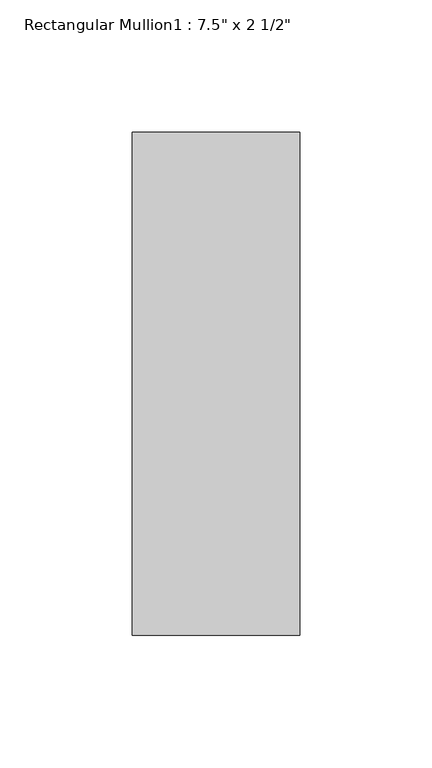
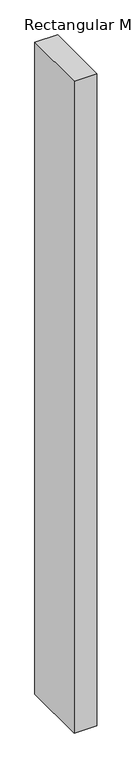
"""IFC4 building model written with IfcOpenShell, lengths in millimetres: member geometry."""

import ifcopenshell
import ifcopenshell.guid

model = None  # the IFC model being written
_history = None  # IfcOwnerHistory: only IFC2X3 demands one
_inside = {}  # id of a spatial element -> (the spatial element, [elements in it])
_under = {}  # id of a project, library or spatial element -> (it, [spatial elements below it])
_declared = {}  # id of a project -> (the project, [libraries it declares])
_typed = {}  # id of a type object -> (the type object, [elements of that type])
_made_of = {}  # id of a material, layer set ... -> (it, [elements and type objects made of it])


def new_model(schema):
    """Start an empty IFC model of exactly this schema.

    Asked for "IFC4X3", IfcOpenShell would pick the latest addendum, in which some entities
    have other attributes; the version numbers below select the first issue.
    IFC2X3 requires an IfcOwnerHistory on every rooted entity: one is made here for all.
    """
    global model, _history
    if schema == "IFC4X3":
        model = ifcopenshell.file(schema_version=(4, 3, 0, 0))
    else:
        model = ifcopenshell.file(schema=schema)
    _inside.clear()
    _under.clear()
    _declared.clear()
    _typed.clear()
    _made_of.clear()
    _history = None
    if model.schema == "IFC2X3":
        org = make("IfcOrganization", Name="unknown")
        user = make(
            "IfcPersonAndOrganization",
            ThePerson=make("IfcPerson", FamilyName="unknown"),
            TheOrganization=org,
        )
        app = make(
            "IfcApplication",
            ApplicationDeveloper=org,
            Version="unknown",
            ApplicationFullName="unknown",
            ApplicationIdentifier="unknown",
        )
        _history = make(
            "IfcOwnerHistory",
            OwningUser=user,
            OwningApplication=app,
            ChangeAction="ADDED",
            CreationDate=0,
        )
    return model


def make(cls, **values):
    """One entity of the class cls with the attributes given. An attribute that is None is left unset."""
    return model.create_entity(
        cls, **{name: value for name, value in values.items() if value is not None}
    )


def rooted(cls, **values):
    """An entity with a GlobalId (a new one), such as an element, a storey or a relation."""
    return make(cls, GlobalId=ifcopenshell.guid.new(), OwnerHistory=_history, **values)


def si_unit(unit_type, name, prefix=None):
    """IfcSIUnit, for example si_unit("LENGTHUNIT", "METRE", prefix="MILLI")."""
    return make("IfcSIUnit", UnitType=unit_type, Prefix=prefix, Name=name)


def assignment(units):
    """IfcUnitAssignment: the units of a project."""
    return None if units is None else make("IfcUnitAssignment", Units=units)


def point(xyz):
    """IfcCartesianPoint."""
    return None if xyz is None else make("IfcCartesianPoint", Coordinates=xyz)


def direction(xyz):
    """IfcDirection."""
    return None if xyz is None else make("IfcDirection", DirectionRatios=xyz)


def frame(location, z_axis=None, x_axis=None):
    """IfcAxis2Placement3D, a coordinate frame: its origin and axes. An axis left out is left unset."""
    return make(
        "IfcAxis2Placement3D",
        Location=point(location),
        Axis=direction(z_axis),
        RefDirection=direction(x_axis),
    )


def origin():
    """The frame at (0, 0, 0) with its axes left unset."""
    return frame((0.0, 0.0, 0.0))


def place(relative_to, where):
    """IfcLocalPlacement: puts the frame where relative to a parent placement (None: the world)."""
    return make(
        "IfcLocalPlacement", PlacementRelTo=relative_to, RelativePlacement=where
    )


def context(
    kind, dimensions, precision=None, world=None, true_north=None, identifier=None
):
    """IfcGeometricRepresentationContext, for example the 3D "Model" context."""
    return make(
        "IfcGeometricRepresentationContext",
        ContextIdentifier=identifier,
        ContextType=kind,
        CoordinateSpaceDimension=dimensions,
        Precision=precision,
        WorldCoordinateSystem=world,
        TrueNorth=true_north,
    )


def project(units=None, contexts=None):
    """IfcProject with its units and contexts."""
    return rooted(
        "IfcProject",
        Name="project",
        RepresentationContexts=contexts,
        UnitsInContext=assignment(units),
    )


def spatial(cls, under=None, at=None, **own):
    """A site, building, storey or space (cls), placed at a placement, below another one or the project."""
    s = rooted(cls, ObjectPlacement=at, **own)
    if under is not None:
        _under.setdefault(under.id(), (under, []))[1].append(s)
    return s


def polyline(points):
    """IfcPolyline through the points."""
    return make("IfcPolyline", Points=[point(p) for p in points])


def outline(outer, holes=None, kind="AREA"):
    """IfcArbitraryClosedProfileDef: a profile drawn as a closed curve; with holes, ...WithVoids."""
    if holes is None:
        return make("IfcArbitraryClosedProfileDef", ProfileType=kind, OuterCurve=outer)
    return make(
        "IfcArbitraryProfileDefWithVoids",
        ProfileType=kind,
        OuterCurve=outer,
        InnerCurves=holes,
    )


def extrude(swept, where, along, depth):
    """IfcExtrudedAreaSolid: the profile swept, set in the frame where, extruded along a direction by depth."""
    return make(
        "IfcExtrudedAreaSolid",
        SweptArea=swept,
        Position=where,
        ExtrudedDirection=direction(along),
        Depth=depth,
    )


def shape(context_of_items, identifier, shape_type, items):
    """IfcShapeRepresentation: the items that make up one representation, for example the "Body"."""
    return make(
        "IfcShapeRepresentation",
        ContextOfItems=context_of_items,
        RepresentationIdentifier=identifier,
        RepresentationType=shape_type,
        Items=items,
    )


def source(mapping_origin, context_of_items, identifier, shape_type, items):
    """IfcRepresentationMap: a shape defined once, which mapped items show again and again."""
    return make(
        "IfcRepresentationMap",
        MappingOrigin=mapping_origin,
        MappedRepresentation=shape(context_of_items, identifier, shape_type, items),
    )


def transform(
    local_origin,
    x_axis=None,
    y_axis=None,
    z_axis=None,
    scale=None,
    scale2=None,
    scale3=None,
    uniform=True,
):
    """IfcCartesianTransformationOperator3D, or its non-uniform kind. x_axis, y_axis, z_axis: its Axis1, 2, 3."""
    if uniform:
        return make(
            "IfcCartesianTransformationOperator3D",
            Axis1=direction(x_axis),
            Axis2=direction(y_axis),
            LocalOrigin=point(local_origin),
            Scale=scale,
            Axis3=direction(z_axis),
        )
    return make(
        "IfcCartesianTransformationOperator3DnonUniform",
        Axis1=direction(x_axis),
        Axis2=direction(y_axis),
        LocalOrigin=point(local_origin),
        Scale=scale,
        Axis3=direction(z_axis),
        Scale2=scale2,
        Scale3=scale3,
    )


def mapped(mapping_source, mapping_target):
    """IfcMappedItem: shows the shape of a source again, moved by a transform."""
    return make(
        "IfcMappedItem", MappingSource=mapping_source, MappingTarget=mapping_target
    )


def made_of(thing, what):
    """Note that an element or type object is made of a material, layer set ...; save() writes the relation."""
    if what is not None:
        _made_of.setdefault(what.id(), (what, []))[1].append(thing)
    return thing


def element(
    cls,
    number,
    at=None,
    inside=None,
    cuts=None,
    type_object=None,
    material=None,
    context=None,
    identifier="Body",
    shape_type=None,
    held_by="IfcProductDefinitionShape",
    body=None,
    shapes=None,
    **own,
):
    """One element of the class cls, such as IfcWall. Its Tag is "e" and its number.

    at: its placement. inside: the storey or other place that contains it. cuts: it is an
    opening in that element (IfcRelVoidsElement). A single representation is given by context,
    identifier, shape_type and body (its items); several are given by shapes. held_by: the class
    of the entity that holds the representations. save() writes the other relations.
    """
    e = rooted(cls, Tag="e%d" % number, ObjectPlacement=at, **own)
    if body is not None:
        shapes = [shape(context, identifier, shape_type, body)]
    if shapes is not None:
        e.Representation = make(held_by, Representations=shapes)
    if inside is not None:
        _inside.setdefault(inside.id(), (inside, []))[1].append(e)
    if cuts is not None:
        rooted(
            "IfcRelVoidsElement", RelatingBuildingElement=cuts, RelatedOpeningElement=e
        )
    if type_object is not None:
        _typed.setdefault(type_object.id(), (type_object, []))[1].append(e)
    return made_of(e, material)


def aggregate(whole, parts):
    """IfcRelAggregates: a whole, such as a stair, and the parts it consists of."""
    return rooted("IfcRelAggregates", RelatingObject=whole, RelatedObjects=parts)


def save(model, path):
    """Write the relations noted so far, then the file.

    IfcRelAggregates (storeys below a building ...), IfcRelContainedInSpatialStructure (elements
    in a storey), IfcRelDefinesByType, IfcRelAssociatesMaterial and IfcRelDeclares: one each for
    every whole, place, type object, material and project.
    """
    for whole, parts in _under.values():
        aggregate(whole, parts)
    for where, things in _inside.values():
        rooted(
            "IfcRelContainedInSpatialStructure",
            RelatedElements=things,
            RelatingStructure=where,
        )
    for kind, things in _typed.values():
        rooted("IfcRelDefinesByType", RelatedObjects=things, RelatingType=kind)
    for what, things in _made_of.values():
        rooted("IfcRelAssociatesMaterial", RelatedObjects=things, RelatingMaterial=what)
    for by, libraries in _declared.values():
        rooted("IfcRelDeclares", RelatingContext=by, RelatedDefinitions=libraries)
    model.write(path)


def member_15c4c2d4(model_context):
    return source(origin(), model_context, "Body", "SweptSolid", [
        extrude(outline(polyline([(31.75, 165.1), (31.75, -25.4), (-31.75, -25.4), (-31.75, 165.1), (31.75, 165.1)])), frame((0.0, 0.0, -1936.749999), z_axis=(0.0, 0.0, 1.0), x_axis=(1.0, 0.0, 0.0)), (0.0, 0.0, 1.0), 1936.749999),
    ])


if __name__ == "__main__":
    model = new_model("IFC4")
    model_context = context("Model", 3, world=origin())
    ifc_project = project(units=[si_unit("LENGTHUNIT", "METRE", prefix="MILLI")], contexts=[model_context])
    site = spatial("IfcSite", under=ifc_project)
    building = spatial("IfcBuilding", under=site)
    placement = place(None, origin())
    member_shape = member_15c4c2d4(model_context)
    element("IfcMember", 1, ObjectType="Rectangular Mullion1 : 7.5\" x 2 1/2\"", at=placement, inside=building, context=model_context, shape_type="MappedRepresentation", body=[
        mapped(member_shape, transform((0.0, 0.0, 0.0), x_axis=(1.0, 0.0, 0.0), y_axis=(0.0, 1.0, 0.0), z_axis=(0.0, 0.0, 1.0))),
    ])
    save(model, "model.ifc")
